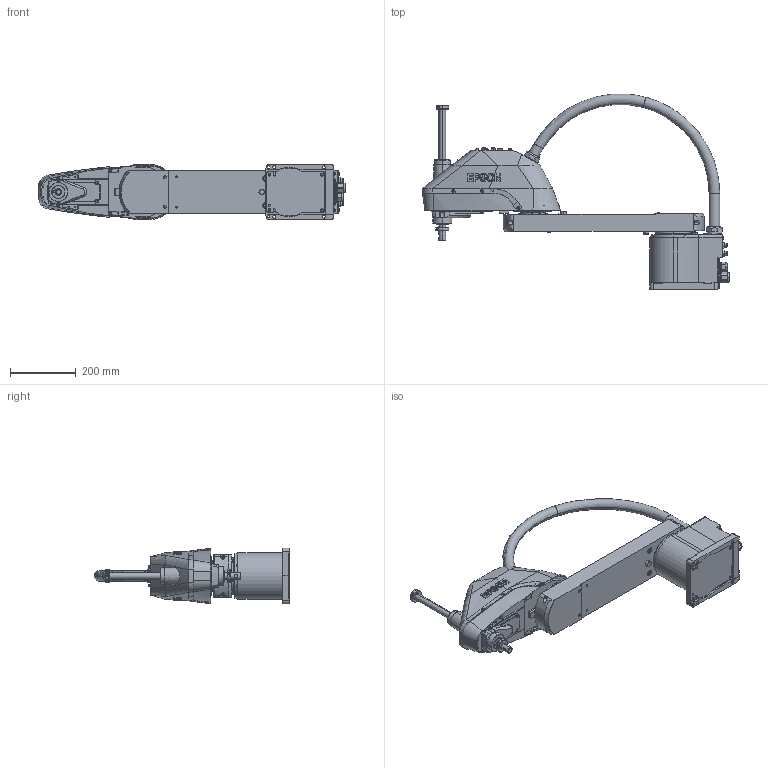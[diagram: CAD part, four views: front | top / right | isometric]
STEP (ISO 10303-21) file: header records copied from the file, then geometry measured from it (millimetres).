
FILE_DESCRIPTION (( 'STEP AP214' ), '1' );
FILE_NAME ('LS8-x702S.STEP', '2026-07-16T17:47:26', ( '' ), ( '' ), 'SwSTEP 2.0', 'SolidWorks 2020', '' );
FILE_SCHEMA (( 'AUTOMOTIVE_DESIGN' ));
Length unit declared in the file: millimetre
Products named in the file (5): LS8-CX02S_BOX__1_2; LS8-CX02X_700__ARM1_1; LS8-CX02S_Z_AXIS_1_2; LS8-x702S; LS8-CX02S_700__HOUSING
Assembly tree (4 placements, depth 2):
  LS8-x702S
    LS8-CX02S_BOX__1_2
    LS8-CX02X_700__ARM1_1
    LS8-CX02S_700__HOUSING
    LS8-CX02S_Z_AXIS_1_2
Bounding box: 933.25 x 593.09 x 169 mm (x, y, z)
Volume: 8710919 mm3; surface area: 902494.3 mm2
Topology: 3 solids, 4 shells, 2491 faces, 6348 edges, 4114 vertices
Faces by surface type: cylinder 1059, plane 959, cone 244, torus 108, bspline 61, sphere 60
Entity records: 107912 total; most frequent: CARTESIAN_POINT 43310, ORIENTED_EDGE 12658, DIRECTION 8693, EDGE_CURVE 6331, VERTEX_POINT 4114, B_SPLINE_CURVE_WITH_KNOTS 3730, AXIS2_PLACEMENT_3D 3663, EDGE_LOOP 2792
